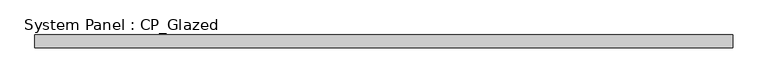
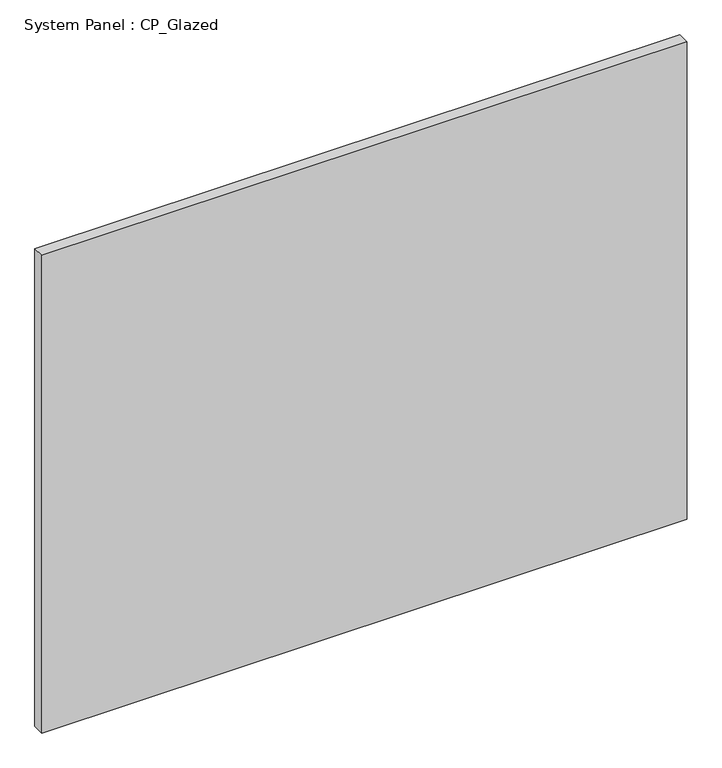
"""IFC4 building model written with IfcOpenShell, lengths in millimetres: plate geometry, System Panel : CP_Glazed."""

import ifcopenshell
import ifcopenshell.guid

model = None  # the IFC model being written
_history = None  # IfcOwnerHistory: only IFC2X3 demands one
_inside = {}  # id of a spatial element -> (the spatial element, [elements in it])
_under = {}  # id of a project, library or spatial element -> (it, [spatial elements below it])
_declared = {}  # id of a project -> (the project, [libraries it declares])
_typed = {}  # id of a type object -> (the type object, [elements of that type])
_made_of = {}  # id of a material, layer set ... -> (it, [elements and type objects made of it])


def new_model(schema):
    """Start an empty IFC model of exactly this schema.

    Asked for "IFC4X3", IfcOpenShell would pick the latest addendum, in which some entities
    have other attributes; the version numbers below select the first issue.
    IFC2X3 requires an IfcOwnerHistory on every rooted entity: one is made here for all.
    """
    global model, _history
    if schema == "IFC4X3":
        model = ifcopenshell.file(schema_version=(4, 3, 0, 0))
    else:
        model = ifcopenshell.file(schema=schema)
    _inside.clear()
    _under.clear()
    _declared.clear()
    _typed.clear()
    _made_of.clear()
    _history = None
    if model.schema == "IFC2X3":
        org = make("IfcOrganization", Name="unknown")
        user = make(
            "IfcPersonAndOrganization",
            ThePerson=make("IfcPerson", FamilyName="unknown"),
            TheOrganization=org,
        )
        app = make(
            "IfcApplication",
            ApplicationDeveloper=org,
            Version="unknown",
            ApplicationFullName="unknown",
            ApplicationIdentifier="unknown",
        )
        _history = make(
            "IfcOwnerHistory",
            OwningUser=user,
            OwningApplication=app,
            ChangeAction="ADDED",
            CreationDate=0,
        )
    return model


def make(cls, **values):
    """One entity of the class cls with the attributes given. An attribute that is None is left unset."""
    return model.create_entity(
        cls, **{name: value for name, value in values.items() if value is not None}
    )


def rooted(cls, **values):
    """An entity with a GlobalId (a new one), such as an element, a storey or a relation."""
    return make(cls, GlobalId=ifcopenshell.guid.new(), OwnerHistory=_history, **values)


def si_unit(unit_type, name, prefix=None):
    """IfcSIUnit, for example si_unit("LENGTHUNIT", "METRE", prefix="MILLI")."""
    return make("IfcSIUnit", UnitType=unit_type, Prefix=prefix, Name=name)


def assignment(units):
    """IfcUnitAssignment: the units of a project."""
    return None if units is None else make("IfcUnitAssignment", Units=units)


def point(xyz):
    """IfcCartesianPoint."""
    return None if xyz is None else make("IfcCartesianPoint", Coordinates=xyz)


def direction(xyz):
    """IfcDirection."""
    return None if xyz is None else make("IfcDirection", DirectionRatios=xyz)


def frame(location, z_axis=None, x_axis=None):
    """IfcAxis2Placement3D, a coordinate frame: its origin and axes. An axis left out is left unset."""
    return make(
        "IfcAxis2Placement3D",
        Location=point(location),
        Axis=direction(z_axis),
        RefDirection=direction(x_axis),
    )


def origin():
    """The frame at (0, 0, 0) with its axes left unset."""
    return frame((0.0, 0.0, 0.0))


def origin_with_axes():
    """The frame at (0, 0, 0) with the z axis (0, 0, 1) and the x axis (1, 0, 0) written out."""
    return frame((0.0, 0.0, 0.0), z_axis=(0.0, 0.0, 1.0), x_axis=(1.0, 0.0, 0.0))


def place(relative_to, where):
    """IfcLocalPlacement: puts the frame where relative to a parent placement (None: the world)."""
    return make(
        "IfcLocalPlacement", PlacementRelTo=relative_to, RelativePlacement=where
    )


def context(
    kind, dimensions, precision=None, world=None, true_north=None, identifier=None
):
    """IfcGeometricRepresentationContext, for example the 3D "Model" context."""
    return make(
        "IfcGeometricRepresentationContext",
        ContextIdentifier=identifier,
        ContextType=kind,
        CoordinateSpaceDimension=dimensions,
        Precision=precision,
        WorldCoordinateSystem=world,
        TrueNorth=true_north,
    )


def project(units=None, contexts=None):
    """IfcProject with its units and contexts."""
    return rooted(
        "IfcProject",
        Name="project",
        RepresentationContexts=contexts,
        UnitsInContext=assignment(units),
    )


def spatial(cls, under=None, at=None, **own):
    """A site, building, storey or space (cls), placed at a placement, below another one or the project."""
    s = rooted(cls, ObjectPlacement=at, **own)
    if under is not None:
        _under.setdefault(under.id(), (under, []))[1].append(s)
    return s


def polyline(points):
    """IfcPolyline through the points."""
    return make("IfcPolyline", Points=[point(p) for p in points])


def outline(outer, holes=None, kind="AREA"):
    """IfcArbitraryClosedProfileDef: a profile drawn as a closed curve; with holes, ...WithVoids."""
    if holes is None:
        return make("IfcArbitraryClosedProfileDef", ProfileType=kind, OuterCurve=outer)
    return make(
        "IfcArbitraryProfileDefWithVoids",
        ProfileType=kind,
        OuterCurve=outer,
        InnerCurves=holes,
    )


def extrude(swept, where, along, depth):
    """IfcExtrudedAreaSolid: the profile swept, set in the frame where, extruded along a direction by depth."""
    return make(
        "IfcExtrudedAreaSolid",
        SweptArea=swept,
        Position=where,
        ExtrudedDirection=direction(along),
        Depth=depth,
    )


def shape(context_of_items, identifier, shape_type, items):
    """IfcShapeRepresentation: the items that make up one representation, for example the "Body"."""
    return make(
        "IfcShapeRepresentation",
        ContextOfItems=context_of_items,
        RepresentationIdentifier=identifier,
        RepresentationType=shape_type,
        Items=items,
    )


def source(mapping_origin, context_of_items, identifier, shape_type, items):
    """IfcRepresentationMap: a shape defined once, which mapped items show again and again."""
    return make(
        "IfcRepresentationMap",
        MappingOrigin=mapping_origin,
        MappedRepresentation=shape(context_of_items, identifier, shape_type, items),
    )


def transform(
    local_origin,
    x_axis=None,
    y_axis=None,
    z_axis=None,
    scale=None,
    scale2=None,
    scale3=None,
    uniform=True,
):
    """IfcCartesianTransformationOperator3D, or its non-uniform kind. x_axis, y_axis, z_axis: its Axis1, 2, 3."""
    if uniform:
        return make(
            "IfcCartesianTransformationOperator3D",
            Axis1=direction(x_axis),
            Axis2=direction(y_axis),
            LocalOrigin=point(local_origin),
            Scale=scale,
            Axis3=direction(z_axis),
        )
    return make(
        "IfcCartesianTransformationOperator3DnonUniform",
        Axis1=direction(x_axis),
        Axis2=direction(y_axis),
        LocalOrigin=point(local_origin),
        Scale=scale,
        Axis3=direction(z_axis),
        Scale2=scale2,
        Scale3=scale3,
    )


def mapped(mapping_source, mapping_target):
    """IfcMappedItem: shows the shape of a source again, moved by a transform."""
    return make(
        "IfcMappedItem", MappingSource=mapping_source, MappingTarget=mapping_target
    )


def made_of(thing, what):
    """Note that an element or type object is made of a material, layer set ...; save() writes the relation."""
    if what is not None:
        _made_of.setdefault(what.id(), (what, []))[1].append(thing)
    return thing


def element(
    cls,
    number,
    at=None,
    inside=None,
    cuts=None,
    type_object=None,
    material=None,
    context=None,
    identifier="Body",
    shape_type=None,
    held_by="IfcProductDefinitionShape",
    body=None,
    shapes=None,
    **own,
):
    """One element of the class cls, such as IfcWall. Its Tag is "e" and its number.

    at: its placement. inside: the storey or other place that contains it. cuts: it is an
    opening in that element (IfcRelVoidsElement). A single representation is given by context,
    identifier, shape_type and body (its items); several are given by shapes. held_by: the class
    of the entity that holds the representations. save() writes the other relations.
    """
    e = rooted(cls, Tag="e%d" % number, ObjectPlacement=at, **own)
    if body is not None:
        shapes = [shape(context, identifier, shape_type, body)]
    if shapes is not None:
        e.Representation = make(held_by, Representations=shapes)
    if inside is not None:
        _inside.setdefault(inside.id(), (inside, []))[1].append(e)
    if cuts is not None:
        rooted(
            "IfcRelVoidsElement", RelatingBuildingElement=cuts, RelatedOpeningElement=e
        )
    if type_object is not None:
        _typed.setdefault(type_object.id(), (type_object, []))[1].append(e)
    return made_of(e, material)


def aggregate(whole, parts):
    """IfcRelAggregates: a whole, such as a stair, and the parts it consists of."""
    return rooted("IfcRelAggregates", RelatingObject=whole, RelatedObjects=parts)


def save(model, path):
    """Write the relations noted so far, then the file.

    IfcRelAggregates (storeys below a building ...), IfcRelContainedInSpatialStructure (elements
    in a storey), IfcRelDefinesByType, IfcRelAssociatesMaterial and IfcRelDeclares: one each for
    every whole, place, type object, material and project.
    """
    for whole, parts in _under.values():
        aggregate(whole, parts)
    for where, things in _inside.values():
        rooted(
            "IfcRelContainedInSpatialStructure",
            RelatedElements=things,
            RelatingStructure=where,
        )
    for kind, things in _typed.values():
        rooted("IfcRelDefinesByType", RelatedObjects=things, RelatingType=kind)
    for what, things in _made_of.values():
        rooted("IfcRelAssociatesMaterial", RelatedObjects=things, RelatingMaterial=what)
    for by, libraries in _declared.values():
        rooted("IfcRelDeclares", RelatingContext=by, RelatedDefinitions=libraries)
    model.write(path)


def system_panel_cp_glazed_2ac271b9(model_context):
    return source(origin(), model_context, "Body", "SweptSolid", [
        extrude(outline(polyline([(685.8, 19.05), (-685.8, 19.05), (-685.8, 44.45), (685.8, 44.45), (685.8, 19.05)])), origin_with_axes(), (0.0, 0.0, 1.0), 1073.15),
    ])


if __name__ == "__main__":
    model = new_model("IFC4")
    model_context = context("Model", 3, world=origin())
    ifc_project = project(units=[si_unit("LENGTHUNIT", "METRE", prefix="MILLI")], contexts=[model_context])
    site = spatial("IfcSite", under=ifc_project)
    building = spatial("IfcBuilding", under=site)
    placement = place(None, origin())
    system_panel_cp_glazed_shape = system_panel_cp_glazed_2ac271b9(model_context)
    element("IfcPlate", 1, ObjectType="System Panel : CP_Glazed", at=placement, inside=building, context=model_context, shape_type="MappedRepresentation", body=[
        mapped(system_panel_cp_glazed_shape, transform((0.0, 0.0, 0.0), x_axis=(1.0, 0.0, 0.0), y_axis=(0.0, 1.0, 0.0), z_axis=(0.0, 0.0, 1.0))),
    ])
    save(model, "model.ifc")
